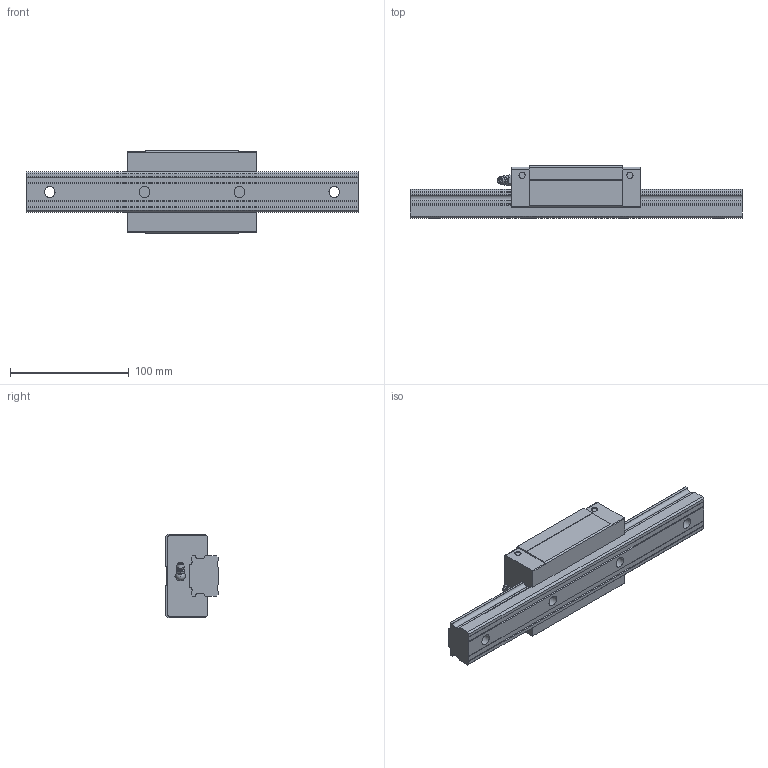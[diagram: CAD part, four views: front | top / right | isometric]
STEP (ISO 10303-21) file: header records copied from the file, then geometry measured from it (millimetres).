
FILE_DESCRIPTION(/* description */ ('STEP AP203'),/* implementation_level */ '2;1');
FILE_NAME(/* name */ 'SVR35R1SS-280L_G20_0_B-M6F_85-25_0_0_0_1',/* time_stamp */ '2024-05-17T07:06:14+02:00',/* author */ ('License CC BY-ND 4.0'),/* organization */ ('CADENAS'),/* preprocessor_version */ 'ST-DEVELOPER v19.3',/* originating_system */ 'PARTsolutions',/* authorisation */ ' ');
FILE_SCHEMA (('CONFIG_CONTROL_DESIGN'));
Length unit declared in the file: millimetre
Products named in the file (4): SVR35R1SS-280L_G20_0_B-M6F_85-25_0_0_0_1; SVR 35R28020 R Track; SVR 35R1SSB-M6F1 Slide; B-M6F_grease_nipple_joint1_SVR
Assembly tree (3 placements, depth 2):
  SVR35R1SS-280L_G20_0_B-M6F_85-25_0_0_0_1
    SVR 35R28020 R Track
    SVR 35R1SSB-M6F1 Slide
    B-M6F_grease_nipple_joint1_SVR
Bounding box: 280 x 44 x 70 mm (x, y, z)
Volume: 411768.8 mm3; surface area: 70050.9 mm2
Topology: 3 solids, 3 shells, 182 faces, 484 edges, 317 vertices
Faces by surface type: plane 100, cylinder 56, cone 21, sphere 3, torus 2
Full cylindrical faces by diameter (mm): 4.917 x2, 5.2 x4, 6 x1, 6.647 x4, 8 x1, 9 x4, 14 x4
Entity records: 5481 total; most frequent: CARTESIAN_POINT 1017, DIRECTION 912, ORIENTED_EDGE 852, EDGE_CURVE 426, AXIS2_PLACEMENT_3D 324, VERTEX_POINT 305, LINE 264, VECTOR 264
